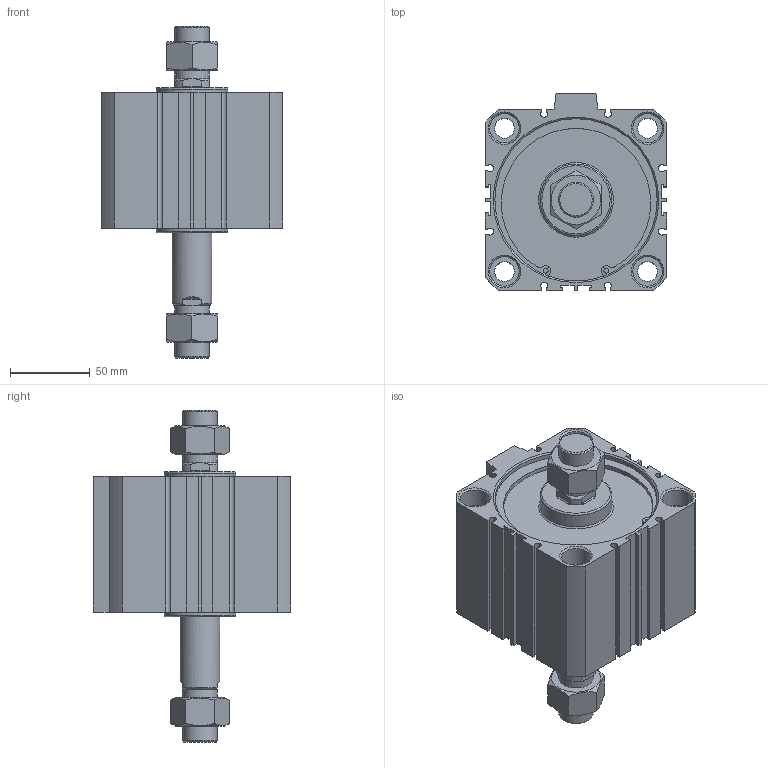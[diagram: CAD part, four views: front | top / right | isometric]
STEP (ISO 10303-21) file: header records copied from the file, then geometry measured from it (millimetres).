
FILE_DESCRIPTION((''),'2;1');
FILE_NAME('I:\3D電子目錄\氣缸\JDD\JDD-B\JDD100-B\JDD100x40-B.stp','2007-02-27T13:27:45',('662F206'),(''),'Autodesk Inventor 10','Autodesk Inventor 10','');
FILE_SCHEMA(('AUTOMOTIVE_DESIGN { 1 0 10303 214 1 1 1 1 }'));
Length unit declared in the file: millimetre
Products named in the file (3): JDD100-B; R 形環 100
Assembly tree (3 placements, depth 2):
  JDD100-B
    JDD100-B
    R 形環 100  x2
Bounding box: 114 x 124 x 208.7 mm (x, y, z)
Volume: 1012231.1 mm3; surface area: 124208.2 mm2
Topology: 3 solids, 3 shells, 219 faces, 538 edges, 351 vertices
Faces by surface type: plane 130, cylinder 59, cone 26, bspline 2, torus 2
Full cylindrical faces by diameter (mm): 3.1 x4, 3.5 x2, 12.5 x4, 18.5 x8, 22 x4, 25 x1, 45 x2, 102 x4, 106 x2
Entity records: 5905 total; most frequent: CARTESIAN_POINT 1143, DIRECTION 978, ORIENTED_EDGE 894, EDGE_CURVE 447, AXIS2_PLACEMENT_3D 356, VERTEX_POINT 323, EDGE_LOOP 298, VECTOR 266
